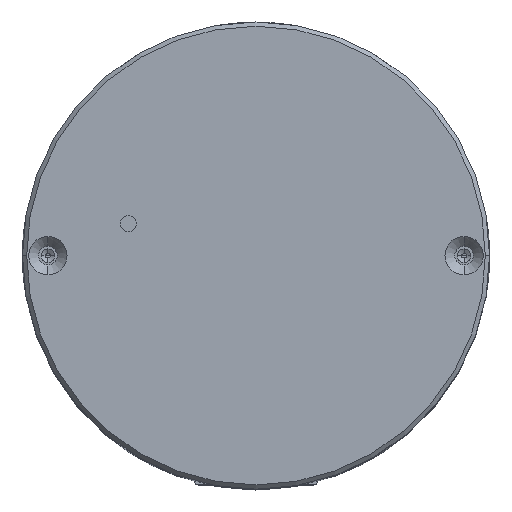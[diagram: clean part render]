
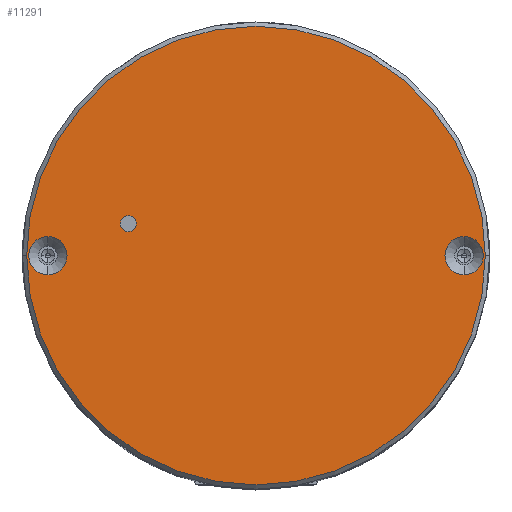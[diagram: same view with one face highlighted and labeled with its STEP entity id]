
A CAD part, top view. The second image highlights one B-rep face of the part: STEP entity #11291.
In plain terms, the highlighted planar face has unit normal (0, 0, 1).
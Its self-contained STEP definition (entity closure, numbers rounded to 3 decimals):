
#345 = DIRECTION ( 'NONE',  ( 0., 0., 1. ) ) ;
#557 = DIRECTION ( 'NONE',  ( 0., 0., 1. ) ) ;
#708 = DIRECTION ( 'NONE',  ( 0., 1., 0. ) ) ;
#751 = PLANE ( 'NONE',  #18978 ) ;
#756 = DIRECTION ( 'NONE',  ( 0., 0., 1. ) ) ;
#765 = ORIENTED_EDGE ( 'NONE', *, *, #16721, .F. ) ;
#2066 = CARTESIAN_POINT ( 'NONE',  ( -24.5, 0., 0. ) ) ;
#2269 = CARTESIAN_POINT ( 'NONE',  ( 24.5, 0., 0. ) ) ;
#3986 = VERTEX_POINT ( 'NONE', #19192 ) ;
#4035 = ORIENTED_EDGE ( 'NONE', *, *, #19116, .T. ) ;
#4056 = CARTESIAN_POINT ( 'NONE',  ( -24.5, -2.25, 0. ) ) ;
#4086 = FACE_OUTER_BOUND ( 'NONE', #8608, .T. ) ;
#4126 = CARTESIAN_POINT ( 'NONE',  ( 0., 0., 0. ) ) ;
#4895 = ORIENTED_EDGE ( 'NONE', *, *, #16177, .T. ) ;
#5432 = CARTESIAN_POINT ( 'NONE',  ( 24.5, -2.25, 0. ) ) ;
#5494 = AXIS2_PLACEMENT_3D ( 'NONE', #20618, #15186, #20371 ) ;
#5743 = DIRECTION ( 'NONE',  ( -1., 0., 0. ) ) ;
#5931 = CARTESIAN_POINT ( 'NONE',  ( 0., 0., 0. ) ) ;
#6082 = EDGE_LOOP ( 'NONE', ( #765, #6729 ) ) ;
#6512 = EDGE_CURVE ( 'NONE', #22690, #10887, #19080, .T. ) ;
#6729 = ORIENTED_EDGE ( 'NONE', *, *, #6512, .F. ) ;
#6805 = AXIS2_PLACEMENT_3D ( 'NONE', #2269, #19575, #10807 ) ;
#6995 = VERTEX_POINT ( 'NONE', #15139 ) ;
#7446 = ORIENTED_EDGE ( 'NONE', *, *, #13035, .F. ) ;
#8608 = EDGE_LOOP ( 'NONE', ( #4895, #4035 ) ) ;
#10285 = CIRCLE ( 'NONE', #17638, 2.25 ) ;
#10807 = DIRECTION ( 'NONE',  ( 0., 1., 0. ) ) ;
#10887 = VERTEX_POINT ( 'NONE', #18290 ) ;
#10966 = AXIS2_PLACEMENT_3D ( 'NONE', #11471, #18133, #18252 ) ;
#10967 = DIRECTION ( 'NONE',  ( 0., 0., 1. ) ) ;
#11223 = EDGE_LOOP ( 'NONE', ( #12215, #20773 ) ) ;
#11291 = ADVANCED_FACE ( 'NONE', ( #16644, #12974, #20245, #4086 ), #751, .T. ) ;
#11471 = CARTESIAN_POINT ( 'NONE',  ( -15.04, 3.75, 0. ) ) ;
#11586 = ORIENTED_EDGE ( 'NONE', *, *, #14936, .F. ) ;
#12215 = ORIENTED_EDGE ( 'NONE', *, *, #22313, .F. ) ;
#12326 = CIRCLE ( 'NONE', #6805, 2.25 ) ;
#12471 = AXIS2_PLACEMENT_3D ( 'NONE', #12567, #557, #18304 ) ;
#12567 = CARTESIAN_POINT ( 'NONE',  ( 24.5, 0., 0. ) ) ;
#12873 = DIRECTION ( 'NONE',  ( 0., 0., 1. ) ) ;
#12974 = FACE_BOUND ( 'NONE', #11223, .T. ) ;
#13035 = EDGE_CURVE ( 'NONE', #13094, #15687, #12326, .T. ) ;
#13094 = VERTEX_POINT ( 'NONE', #18515 ) ;
#13466 = CIRCLE ( 'NONE', #20809, 27. ) ;
#13682 = CARTESIAN_POINT ( 'NONE',  ( -14.09, 3.75, 0. ) ) ;
#14936 = EDGE_CURVE ( 'NONE', #15687, #13094, #15433, .T. ) ;
#14994 = EDGE_CURVE ( 'NONE', #22798, #3986, #22417, .T. ) ;
#15139 = CARTESIAN_POINT ( 'NONE',  ( -27., 0., 0. ) ) ;
#15186 = DIRECTION ( 'NONE',  ( 0., 0., 1. ) ) ;
#15297 = VERTEX_POINT ( 'NONE', #21941 ) ;
#15433 = CIRCLE ( 'NONE', #12471, 2.25 ) ;
#15466 = CIRCLE ( 'NONE', #5494, 0.95 ) ;
#15687 = VERTEX_POINT ( 'NONE', #5432 ) ;
#16177 = EDGE_CURVE ( 'NONE', #15297, #6995, #19834, .T. ) ;
#16462 = DIRECTION ( 'NONE',  ( 0., 1., 0. ) ) ;
#16492 = CARTESIAN_POINT ( 'NONE',  ( -24.5, 0., 0. ) ) ;
#16544 = DIRECTION ( 'NONE',  ( -1., 0., 0. ) ) ;
#16644 = FACE_BOUND ( 'NONE', #6082, .T. ) ;
#16721 = EDGE_CURVE ( 'NONE', #10887, #22690, #15466, .T. ) ;
#16987 = EDGE_LOOP ( 'NONE', ( #7446, #11586 ) ) ;
#17638 = AXIS2_PLACEMENT_3D ( 'NONE', #16492, #10967, #708 ) ;
#17977 = AXIS2_PLACEMENT_3D ( 'NONE', #4126, #21541, #5743 ) ;
#18133 = DIRECTION ( 'NONE',  ( 0., 0., 1. ) ) ;
#18252 = DIRECTION ( 'NONE',  ( -1., 0., 0. ) ) ;
#18290 = CARTESIAN_POINT ( 'NONE',  ( -15.99, 3.75, 0. ) ) ;
#18304 = DIRECTION ( 'NONE',  ( 0., 1., 0. ) ) ;
#18494 = CARTESIAN_POINT ( 'NONE',  ( 0., 0., 0. ) ) ;
#18515 = CARTESIAN_POINT ( 'NONE',  ( 24.5, 2.25, 0. ) ) ;
#18978 = AXIS2_PLACEMENT_3D ( 'NONE', #18494, #12873, #16544 ) ;
#19080 = CIRCLE ( 'NONE', #10966, 0.95 ) ;
#19116 = EDGE_CURVE ( 'NONE', #6995, #15297, #13466, .T. ) ;
#19192 = CARTESIAN_POINT ( 'NONE',  ( -24.5, 2.25, 0. ) ) ;
#19575 = DIRECTION ( 'NONE',  ( 0., 0., 1. ) ) ;
#19834 = CIRCLE ( 'NONE', #17977, 27. ) ;
#19836 = AXIS2_PLACEMENT_3D ( 'NONE', #2066, #345, #16462 ) ;
#20001 = DIRECTION ( 'NONE',  ( -1., 0., 0. ) ) ;
#20245 = FACE_BOUND ( 'NONE', #16987, .T. ) ;
#20371 = DIRECTION ( 'NONE',  ( -1., 0., 0. ) ) ;
#20618 = CARTESIAN_POINT ( 'NONE',  ( -15.04, 3.75, 0. ) ) ;
#20773 = ORIENTED_EDGE ( 'NONE', *, *, #14994, .F. ) ;
#20809 = AXIS2_PLACEMENT_3D ( 'NONE', #5931, #756, #20001 ) ;
#21541 = DIRECTION ( 'NONE',  ( 0., 0., 1. ) ) ;
#21941 = CARTESIAN_POINT ( 'NONE',  ( 27., 0., 0. ) ) ;
#22313 = EDGE_CURVE ( 'NONE', #3986, #22798, #10285, .T. ) ;
#22417 = CIRCLE ( 'NONE', #19836, 2.25 ) ;
#22690 = VERTEX_POINT ( 'NONE', #13682 ) ;
#22798 = VERTEX_POINT ( 'NONE', #4056 ) ;
